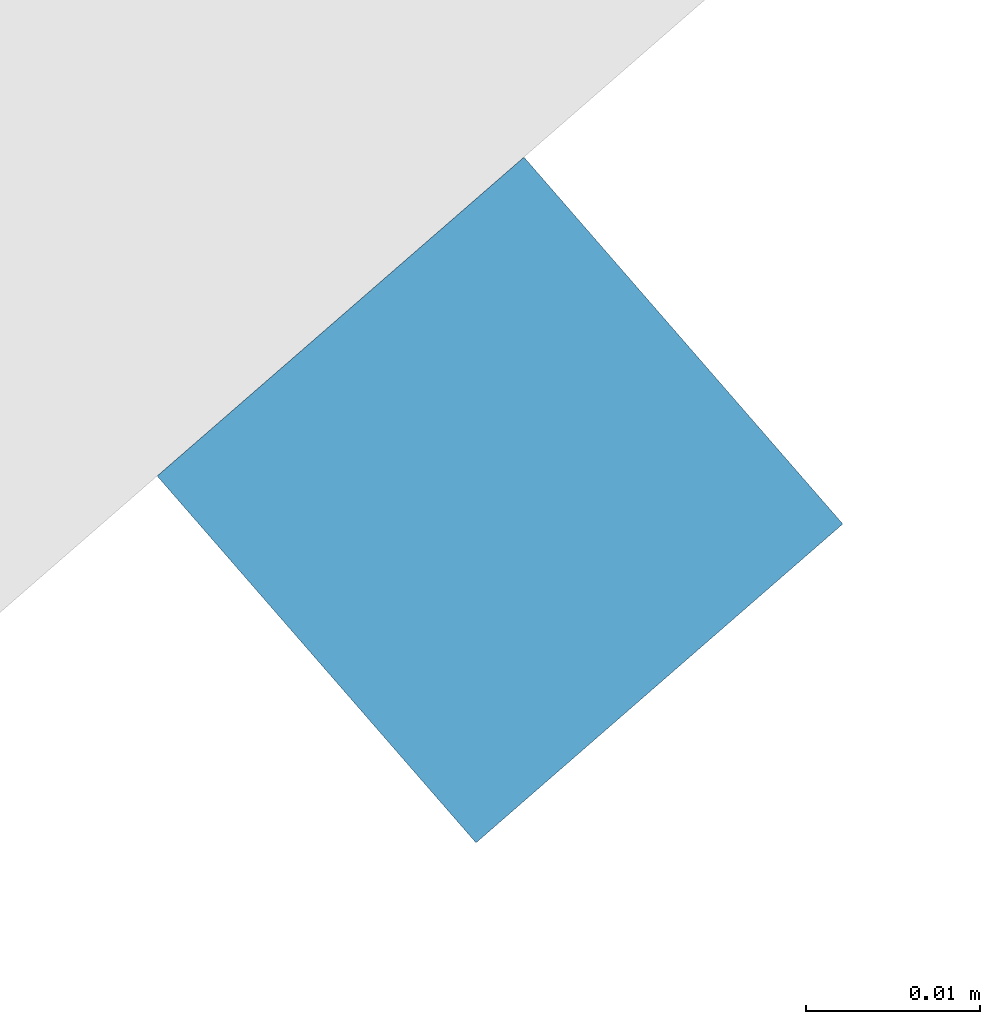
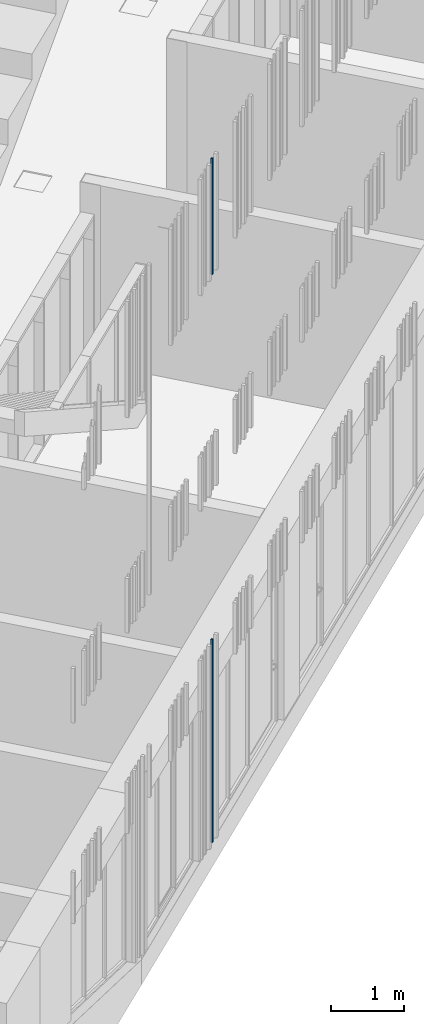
# One storey, part 61 of 124: 2 walls.
"""IFC2X3 building model written with IfcOpenShell, lengths in millimetres."""

from ifc_helpers import new_model, entity, si_unit, converted_unit, derived_unit, money_unit, direction, frame, origin_with_axes, place, context, subcontext, project, spatial, faceted_brep, material, type_object, element, save


model = new_model("IFC2X3")

# Units and contexts
model_context = context("Model", 3, precision=1e-05, world=origin_with_axes(), true_north=direction((0.0, 1.0)))
body_context = subcontext(model_context, "Body", "Model", "MODEL_VIEW")
ifc_project = project(units=[si_unit("LENGTHUNIT", "METRE", prefix="MILLI"), si_unit("AREAUNIT", "SQUARE_METRE"), si_unit("VOLUMEUNIT", "CUBIC_METRE"), converted_unit("PLANEANGLEUNIT", "DEGREE", entity("IfcPlaneAngleMeasure", 0.0174532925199), si_unit("PLANEANGLEUNIT", "RADIAN"), dimensions=[0, 0, 0, 0, 0, 0, 0]), si_unit("SOLIDANGLEUNIT", "STERADIAN"), money_unit("EUR"), converted_unit("TIMEUNIT", "Year", entity("IfcTimeMeasure", 31556926.0), si_unit("TIMEUNIT", "SECOND"), dimensions=[0, 0, 1, 0, 0, 0, 0]), si_unit("MASSUNIT", "GRAM", prefix="KILO"), si_unit("THERMODYNAMICTEMPERATUREUNIT", "DEGREE_CELSIUS"), si_unit("LUMINOUSINTENSITYUNIT", "LUMEN"), si_unit("ENERGYUNIT", "JOULE", prefix="MEGA"), derived_unit("THERMALCONDUCTANCEUNIT", [(si_unit("POWERUNIT", "WATT"), 1), (si_unit("LENGTHUNIT", "METRE"), -1), (si_unit("THERMODYNAMICTEMPERATUREUNIT", "KELVIN"), -1)]), derived_unit("SPECIFICHEATCAPACITYUNIT", [(si_unit("ENERGYUNIT", "JOULE"), 1), (si_unit("MASSUNIT", "GRAM", prefix="KILO"), -1), (si_unit("THERMODYNAMICTEMPERATUREUNIT", "KELVIN"), -1)]), derived_unit("MASSDENSITYUNIT", [(si_unit("MASSUNIT", "GRAM", prefix="KILO"), 1), (si_unit("VOLUMEUNIT", "CUBIC_METRE"), -1)])], contexts=[model_context])

# Site, building, storey
site_placement = place(None, origin_with_axes())
site = spatial("IfcSite", under=ifc_project, at=site_placement, Name="Site", CompositionType="ELEMENT")
building_placement = place(site_placement, origin_with_axes())
building = spatial("IfcBuilding", under=site, at=building_placement, Name="Building", CompositionType="ELEMENT")
storey_placement = place(building_placement, frame((0.0, 0.0, -1615.0), z_axis=(0.0, 0.0, 1.0), x_axis=(1.0, 0.0, 0.0)))
storey = spatial("IfcBuildingStorey", under=building, at=storey_placement, Name="0  korrus", CompositionType="ELEMENT", Elevation=-1615.0)

# Walls
ifc_material = material(Name="Site specified")
wall_type = type_object("IfcWallType", Name="Puitfassaadi ribistik", PredefinedType="NOTDEFINED")
wall_1_placement = place(storey_placement, frame((155332.241062, 79673.4489073, 0.0), z_axis=(0.0, 0.0, 1.0), x_axis=(-0.754709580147, -0.656059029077, 0.0)))
element("IfcWall", 1, at=wall_1_placement, inside=storey, type_object=wall_type, material=ifc_material, Name="Site specified", context=body_context, shape_type="Brep", body=[
    faceted_brep([(14.0, 14.0, 3410.00001878), (14.0, 14.0, 0.0), (-14.0, 14.0, 0.0), (-14.0, 14.0, 3410.00001878), (14.0, -14.0, 3410.00001878), (14.0, -14.0, 0.0), (-14.0, -14.0, 0.0), (-14.0, -14.0, 3410.00001878)], [[[0, 1, 2, 3]], [[4, 5, 1, 0]], [[2, 1, 5, 6]], [[3, 2, 6, 7]], [[4, 0, 3, 7]], [[7, 6, 5, 4]]]),
])
wall_2_placement = place(storey_placement, frame((155332.241062, 79673.4489073, 9530.0), z_axis=(0.0, 0.0, 1.0), x_axis=(-0.754709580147, -0.656059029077, 0.0)))
element("IfcWall", 2, at=wall_2_placement, inside=storey, type_object=wall_type, material=ifc_material, Name="Site specified", context=body_context, shape_type="Brep", body=[
    faceted_brep([(14.0, 14.0, 1950.0), (14.0, 14.0, 0.0), (-14.0, 14.0, 0.0), (-14.0, 14.0, 1950.0), (14.0, -14.0, 1950.0), (14.0, -14.0, 0.0), (-14.0, -14.0, 0.0), (-14.0, -14.0, 1950.0)], [[[0, 1, 2, 3]], [[4, 5, 1, 0]], [[2, 1, 5, 6]], [[3, 2, 6, 7]], [[4, 0, 3, 7]], [[7, 6, 5, 4]]]),
])

save(model, "model.ifc")
